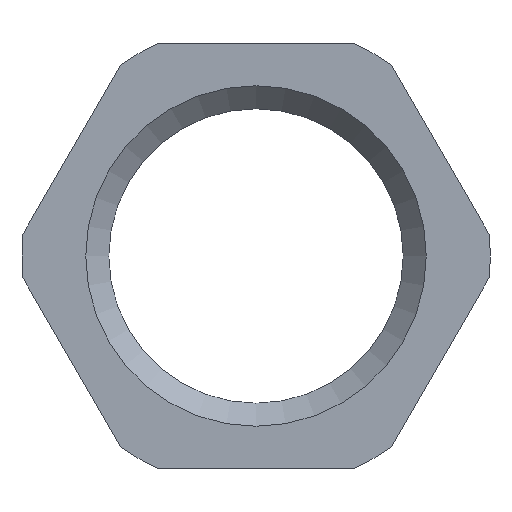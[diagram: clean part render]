
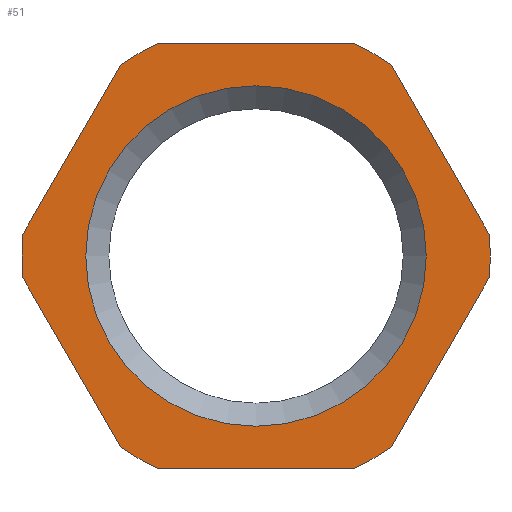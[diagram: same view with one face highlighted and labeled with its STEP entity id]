
A CAD part, left-side view. The second image highlights one B-rep face of the part: STEP entity #51.
In plain terms, the highlighted planar face has unit normal (-1, 0, 0).
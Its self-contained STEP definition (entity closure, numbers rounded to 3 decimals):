
#51 = ADVANCED_FACE( '', ( #109, #110 ), #111, .F. );
#109 = FACE_OUTER_BOUND( '', #172, .T. );
#110 = FACE_BOUND( '', #173, .T. );
#111 = PLANE( '', #174 );
#172 = EDGE_LOOP( '', ( #248, #249, #250, #251, #252, #253, #254, #255, #256, #257, #258, #259 ) );
#173 = EDGE_LOOP( '', ( #260 ) );
#174 = AXIS2_PLACEMENT_3D( '', #261, #262, #263 );
#248 = ORIENTED_EDGE( '', *, *, #380, .F. );
#249 = ORIENTED_EDGE( '', *, *, #381, .F. );
#250 = ORIENTED_EDGE( '', *, *, #375, .F. );
#251 = ORIENTED_EDGE( '', *, *, #382, .F. );
#252 = ORIENTED_EDGE( '', *, *, #383, .F. );
#253 = ORIENTED_EDGE( '', *, *, #384, .F. );
#254 = ORIENTED_EDGE( '', *, *, #385, .F. );
#255 = ORIENTED_EDGE( '', *, *, #386, .F. );
#256 = ORIENTED_EDGE( '', *, *, #368, .F. );
#257 = ORIENTED_EDGE( '', *, *, #360, .F. );
#258 = ORIENTED_EDGE( '', *, *, #387, .F. );
#259 = ORIENTED_EDGE( '', *, *, #388, .F. );
#260 = ORIENTED_EDGE( '', *, *, #366, .T. );
#261 = CARTESIAN_POINT( '', ( 0., 0., 0. ) );
#262 = DIRECTION( '', ( 1., 0., 0. ) );
#263 = DIRECTION( '', ( 0., 0., -1. ) );
#360 = EDGE_CURVE( '', #417, #418, #419, .T. );
#366 = EDGE_CURVE( '', #428, #428, #429, .T. );
#368 = EDGE_CURVE( '', #418, #431, #432, .T. );
#375 = EDGE_CURVE( '', #442, #443, #444, .T. );
#380 = EDGE_CURVE( '', #451, #452, #453, .T. );
#381 = EDGE_CURVE( '', #443, #451, #454, .T. );
#382 = EDGE_CURVE( '', #455, #442, #456, .T. );
#383 = EDGE_CURVE( '', #457, #455, #458, .T. );
#384 = EDGE_CURVE( '', #459, #457, #460, .T. );
#385 = EDGE_CURVE( '', #461, #459, #462, .T. );
#386 = EDGE_CURVE( '', #431, #461, #463, .T. );
#387 = EDGE_CURVE( '', #464, #417, #465, .T. );
#388 = EDGE_CURVE( '', #452, #464, #466, .T. );
#417 = VERTEX_POINT( '', #502 );
#418 = VERTEX_POINT( '', #503 );
#419 = CIRCLE( '', #504, 8.25 );
#428 = VERTEX_POINT( '', #515 );
#429 = CIRCLE( '', #516, 6. );
#431 = VERTEX_POINT( '', #518 );
#432 = LINE( '', #519, #520 );
#442 = VERTEX_POINT( '', #532 );
#443 = VERTEX_POINT( '', #533 );
#444 = LINE( '', #534, #535 );
#451 = VERTEX_POINT( '', #545 );
#452 = VERTEX_POINT( '', #546 );
#453 = LINE( '', #547, #548 );
#454 = CIRCLE( '', #549, 8.25 );
#455 = VERTEX_POINT( '', #550 );
#456 = CIRCLE( '', #551, 8.25 );
#457 = VERTEX_POINT( '', #552 );
#458 = LINE( '', #553, #554 );
#459 = VERTEX_POINT( '', #555 );
#460 = CIRCLE( '', #556, 8.25 );
#461 = VERTEX_POINT( '', #557 );
#462 = LINE( '', #558, #559 );
#463 = CIRCLE( '', #560, 8.25 );
#464 = VERTEX_POINT( '', #561 );
#465 = LINE( '', #562, #563 );
#466 = CIRCLE( '', #564, 8.25 );
#502 = CARTESIAN_POINT( '', ( 0., -3.437, 7.5 ) );
#503 = CARTESIAN_POINT( '', ( 0., -4.777, 6.726 ) );
#504 = AXIS2_PLACEMENT_3D( '', #610, #611, #612 );
#515 = CARTESIAN_POINT( '', ( 0., 0., -6. ) );
#516 = AXIS2_PLACEMENT_3D( '', #621, #622, #623 );
#518 = CARTESIAN_POINT( '', ( 0., -8.214, 0.774 ) );
#519 = CARTESIAN_POINT( '', ( 0., -4.777, 6.726 ) );
#520 = VECTOR( '', #624, 1000. );
#532 = CARTESIAN_POINT( '', ( 0., 4.777, -6.726 ) );
#533 = CARTESIAN_POINT( '', ( 0., 8.214, -0.774 ) );
#534 = CARTESIAN_POINT( '', ( 0., 4.777, -6.726 ) );
#535 = VECTOR( '', #633, 1000. );
#545 = CARTESIAN_POINT( '', ( 0., 8.214, 0.774 ) );
#546 = CARTESIAN_POINT( '', ( 0., 4.777, 6.726 ) );
#547 = CARTESIAN_POINT( '', ( 0., 8.214, 0.774 ) );
#548 = VECTOR( '', #637, 1000. );
#549 = AXIS2_PLACEMENT_3D( '', #638, #639, #640 );
#550 = CARTESIAN_POINT( '', ( 0., 3.437, -7.5 ) );
#551 = AXIS2_PLACEMENT_3D( '', #641, #642, #643 );
#552 = CARTESIAN_POINT( '', ( 0., -3.437, -7.5 ) );
#553 = CARTESIAN_POINT( '', ( 0., -3.437, -7.5 ) );
#554 = VECTOR( '', #644, 1000. );
#555 = CARTESIAN_POINT( '', ( 0., -4.777, -6.726 ) );
#556 = AXIS2_PLACEMENT_3D( '', #645, #646, #647 );
#557 = CARTESIAN_POINT( '', ( 0., -8.214, -0.774 ) );
#558 = CARTESIAN_POINT( '', ( 0., -8.214, -0.774 ) );
#559 = VECTOR( '', #648, 1000. );
#560 = AXIS2_PLACEMENT_3D( '', #649, #650, #651 );
#561 = CARTESIAN_POINT( '', ( 0., 3.437, 7.5 ) );
#562 = CARTESIAN_POINT( '', ( 0., 3.437, 7.5 ) );
#563 = VECTOR( '', #652, 1000. );
#564 = AXIS2_PLACEMENT_3D( '', #653, #654, #655 );
#610 = CARTESIAN_POINT( '', ( 0., 0., 0. ) );
#611 = DIRECTION( '', ( 1., 0., 0. ) );
#612 = DIRECTION( '', ( 0., 0., -1. ) );
#621 = CARTESIAN_POINT( '', ( 0., 0., 0. ) );
#622 = DIRECTION( '', ( 1., 0., 0. ) );
#623 = DIRECTION( '', ( 0., 0., -1. ) );
#624 = DIRECTION( '', ( 0., -0.5, -0.866 ) );
#633 = DIRECTION( '', ( 0., 0.5, 0.866 ) );
#637 = DIRECTION( '', ( 0., -0.5, 0.866 ) );
#638 = CARTESIAN_POINT( '', ( 0., 0., 0. ) );
#639 = DIRECTION( '', ( 1., 0., 0. ) );
#640 = DIRECTION( '', ( 0., 0., -1. ) );
#641 = CARTESIAN_POINT( '', ( 0., 0., 0. ) );
#642 = DIRECTION( '', ( 1., 0., 0. ) );
#643 = DIRECTION( '', ( 0., 0., -1. ) );
#644 = DIRECTION( '', ( 0., 1., 0. ) );
#645 = CARTESIAN_POINT( '', ( 0., 0., 0. ) );
#646 = DIRECTION( '', ( 1., 0., 0. ) );
#647 = DIRECTION( '', ( 0., 0., -1. ) );
#648 = DIRECTION( '', ( 0., 0.5, -0.866 ) );
#649 = CARTESIAN_POINT( '', ( 0., 0., 0. ) );
#650 = DIRECTION( '', ( 1., 0., 0. ) );
#651 = DIRECTION( '', ( 0., 0., -1. ) );
#652 = DIRECTION( '', ( 0., -1., 0. ) );
#653 = CARTESIAN_POINT( '', ( 0., 0., 0. ) );
#654 = DIRECTION( '', ( 1., 0., 0. ) );
#655 = DIRECTION( '', ( 0., 0., -1. ) );
